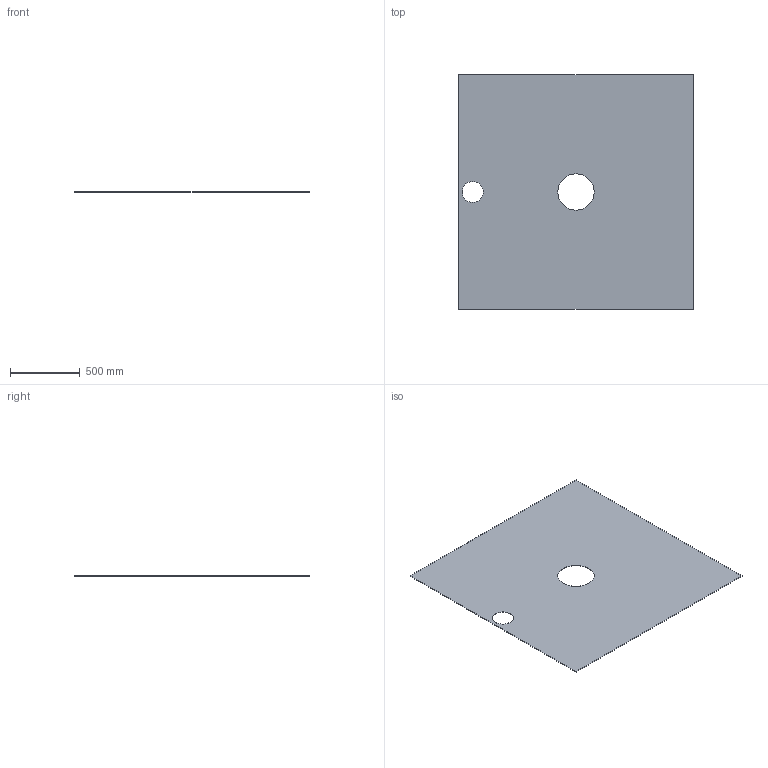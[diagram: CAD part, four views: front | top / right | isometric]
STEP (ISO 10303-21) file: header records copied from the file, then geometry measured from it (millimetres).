
FILE_DESCRIPTION(('Open CASCADE Model'),'2;1');
FILE_NAME('Open CASCADE Shape Model','2026-10-19T10:09:19',('Author'),( 'Open CASCADE'),'Open CASCADE STEP processor 8.0','Open CASCADE 8.0' ,'Unknown');
FILE_SCHEMA(('AUTOMOTIVE_DESIGN { 1 0 10303 214 1 1 1 1 }'));
Length unit declared in the file: millimetre
Products named in the file (1): TOL_TAPA_POLVO_1662x1662x3_P05 20
Bounding box: 1682 x 1682 x 3 mm (x, y, z)
Volume: 8275078.9 mm3; surface area: 5540767.4 mm2
Topology: 1 solids, 1 shells, 8 faces, 18 edges, 12 vertices
Faces by surface type: plane 6, cylinder 2
Full cylindrical faces by diameter (mm): 150 x1, 260 x1
Entity records: 490 total; most frequent: CARTESIAN_POINT 99, DIRECTION 72, LINE 46, VECTOR 46, ORIENTED_EDGE 36, PCURVE 36, DEFINITIONAL_REPRESENTATION 36, EDGE_CURVE 18
